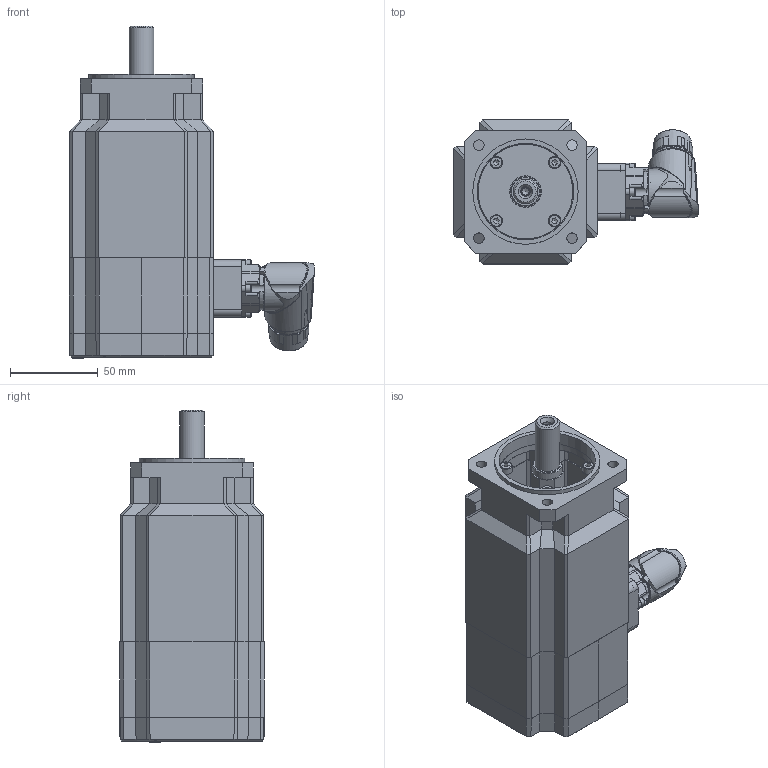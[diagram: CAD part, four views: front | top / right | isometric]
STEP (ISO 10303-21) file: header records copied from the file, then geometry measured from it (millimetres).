
FILE_DESCRIPTION(/* description */ (''),/* implementation_level */ '2;1');
FILE_NAME(/* name */ 'W:\Intelligent Motion\Cinisello\120_Step file convertion for SM motors\SME\82\SMx82.7.14s.IZ\Delivery Files\SMx82.7.14s.IZ..stp',/* time_stamp */ '2018-09-18T19:13:15+06:00',/* author */ ('TK00554015'),/* organization */ (''),/* preprocessor_version */ 'ST-DEVELOPER v16.1',/* originating_system */ 'Autodesk Inventor 2016',/* authorisation */ '');
FILE_SCHEMA (('AUTOMOTIVE_DESIGN { 1 0 10303 214 3 1 1 }'));
Length unit declared in the file: millimetre
Products named in the file (1): SMx82.7.14s.IZ.
Bounding box: 139.55 x 82.45 x 189.1 mm (x, y, z)
Volume: 932354.4 mm3; surface area: 76588.9 mm2
Topology: 1 solids, 1 shells, 874 faces, 2204 edges, 1396 vertices
Faces by surface type: plane 514, cylinder 160, bspline 106, cone 68, torus 26
Full cylindrical faces by diameter (mm): 1 x4, 1.18 x4, 1.75 x1, 1.945 x1, 2 x4, 2.8 x4, 3 x4, 4.134 x1, 4.5 x5, 5.3 x1, 5.5 x4, 5.8 x1, 5.9 x1, 6 x4, 6.5 x4, 6.8 x1, 7 x8, 7.5 x4, 14 x1, 17 x1, 19.9 x1, 21.145 x1, 21.6 x1, 21.8 x1, 21.9 x1, 24.4 x1, 54 x1, 55 x1, 60 x1
Entity records: 28747 total; most frequent: CARTESIAN_POINT 8376, ORIENTED_EDGE 4086, DIRECTION 3717, EDGE_CURVE 2043, VERTEX_POINT 1350, AXIS2_PLACEMENT_3D 1273, LINE 1171, VECTOR 1171
